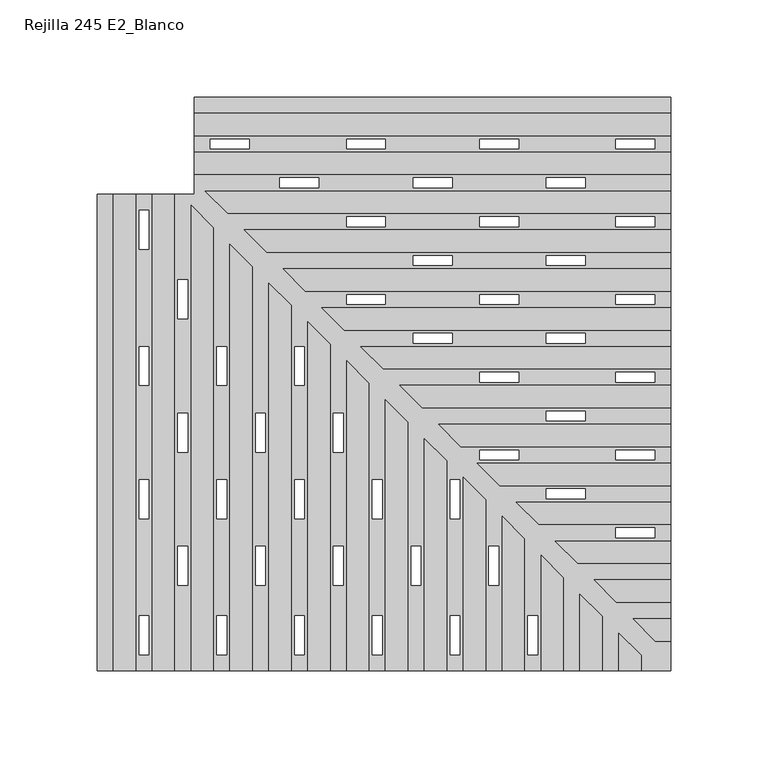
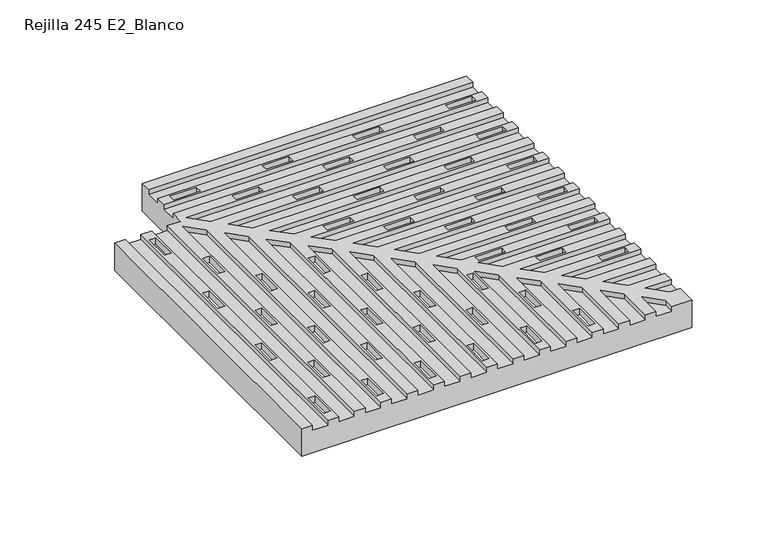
"""IFC4 building model written with IfcOpenShell, lengths in millimetres: proxy geometry, ROSA GRES_245 E2 : Rejilla 245 E2_Blanco."""

from ifc_helpers import new_model, si_unit, origin, place, context, project, spatial, faceted_brep, source, transform, mapped, element, save


def rejilla_245_e2_blanco_29759594(model_context):
    return source(origin(), model_context, "Body", "Brep", [
        faceted_brep([(0.0, 50.0, 228.35), (0.0, 42.0, 228.35), (245.0, 42.0, 228.35), (245.0, 50.0, 228.35), (-50.0, -245.0, 228.35), (-42.0, -245.0, 228.35), (-42.0, 0.0, 228.35), (-50.0, 0.0, 228.35), (-10.0, 0.0, 228.35), (-10.0, -245.0, 228.35), (-2.0, -245.0, 228.35), (-2.0, -5.0710678, 228.35), (10.0, -17.0710678, 228.35), (10.0, -245.0, 228.35), (18.0, -245.0, 228.35), (18.0, -25.0710678, 228.35), (30.0, -37.0710678, 228.35), (30.0, -245.0, 228.35), (38.0, -245.0, 228.35), (38.0, -45.0710678, 228.35), (50.0, -57.0710678, 228.35), (50.0, -245.0, 228.35), (58.0, -245.0, 228.35), (58.0, -65.0710678, 228.35), (70.0, -77.0710678, 228.35), (70.0, -245.0, 228.35), (78.0, -245.0, 228.35), (78.0, -85.0710678, 228.35), (90.0, -97.0710678, 228.35), (90.0, -245.0, 228.35), (98.0, -245.0, 228.35), (98.0, -105.0710678, 228.35), (110.0, -117.0710678, 228.35), (110.0, -245.0, 228.35), (118.0, -245.0, 228.35), (118.0, -125.0710678, 228.35), (130.0, -137.0710678, 228.35), (130.0, -245.0, 228.35), (138.0, -245.0, 228.35), (138.0, -145.0710678, 228.35), (150.0, -157.0710678, 228.35), (150.0, -245.0, 228.35), (158.0, -245.0, 228.35), (158.0, -165.0710678, 228.35), (170.0, -177.0710678, 228.35), (170.0, -245.0, 228.35), (178.0, -245.0, 228.35), (178.0, -185.0710678, 228.35), (190.0, -197.0710678, 228.35), (190.0, -245.0, 228.35), (198.0, -245.0, 228.35), (198.0, -205.0710678, 228.35), (210.0, -217.0710678, 228.35), (210.0, -245.0, 228.35), (218.0, -245.0, 228.35), (218.0, -225.0710678, 228.35), (230.0, -237.0710678, 228.35), (230.0, -245.0, 228.35), (245.0, -245.0, 228.35), (245.0, -230.0, 228.35), (237.0710678, -230.0, 228.35), (225.0710678, -218.0, 228.35), (245.0, -218.0, 228.35), (245.0, -210.0, 228.35), (217.0710678, -210.0, 228.35), (205.0710678, -198.0, 228.35), (245.0, -198.0, 228.35), (245.0, -190.0, 228.35), (197.0710678, -190.0, 228.35), (185.0710678, -178.0, 228.35), (245.0, -178.0, 228.35), (245.0, -170.0, 228.35), (177.0710678, -170.0, 228.35), (165.0710678, -158.0, 228.35), (245.0, -158.0, 228.35), (245.0, -150.0, 228.35), (157.0710678, -150.0, 228.35), (145.0710678, -138.0, 228.35), (245.0, -138.0, 228.35), (245.0, -130.0, 228.35), (137.0710678, -130.0, 228.35), (125.0710678, -118.0, 228.35), (245.0, -118.0, 228.35), (245.0, -110.0, 228.35), (117.0710678, -110.0, 228.35), (105.0710678, -98.0, 228.35), (245.0, -98.0, 228.35), (245.0, -90.0, 228.35), (97.0710678, -90.0, 228.35), (85.0710678, -78.0, 228.35), (245.0, -78.0, 228.35), (245.0, -70.0, 228.35), (77.0710678, -70.0, 228.35), (65.0710678, -58.0, 228.35), (245.0, -58.0, 228.35), (245.0, -50.0, 228.35), (57.0710678, -50.0, 228.35), (45.0710678, -38.0, 228.35), (245.0, -38.0, 228.35), (245.0, -30.0, 228.35), (37.0710678, -30.0, 228.35), (25.0710678, -18.0, 228.35), (245.0, -18.0, 228.35), (245.0, -10.0, 228.35), (17.0710678, -10.0, 228.35), (5.0710678, 2.0, 228.35), (245.0, 2.0, 228.35), (245.0, 10.0, 228.35), (0.0, 10.0, 228.35), (0.0, 0.0, 228.35), (216.7630657, -11.5, 228.35), (236.7630657, -11.5, 228.35), (236.7630657, -16.5, 228.35), (216.7630657, -16.5, 228.35), (216.7630657, -51.5, 228.35), (236.7630657, -51.5, 228.35), (236.7630657, -56.5, 228.35), (216.7630657, -56.5, 228.35), (216.7630657, -91.5, 228.35), (236.7630657, -91.5, 228.35), (236.7630657, -96.5, 228.35), (216.7630657, -96.5, 228.35), (216.7630657, -131.5, 228.35), (236.7630657, -131.5, 228.35), (236.7630657, -136.5, 228.35), (216.7630657, -136.5, 228.35), (216.7630657, -171.5, 228.35), (236.7630657, -171.5, 228.35), (236.7630657, -176.5, 228.35), (216.7630657, -176.5, 228.35), (181.052991, 8.5, 228.35), (201.052991, 8.5, 228.35), (201.052991, 3.5, 228.35), (181.052991, 3.5, 228.35), (181.052991, -31.5, 228.35), (201.052991, -31.5, 228.35), (201.052991, -36.5, 228.35), (181.052991, -36.5, 228.35), (181.052991, -71.5, 228.35), (201.052991, -71.5, 228.35), (201.052991, -76.5, 228.35), (181.052991, -76.5, 228.35), (181.052991, -111.5, 228.35), (201.052991, -111.5, 228.35), (201.052991, -116.5, 228.35), (181.052991, -116.5, 228.35), (181.052991, -151.5, 228.35), (201.052991, -151.5, 228.35), (201.052991, -156.5, 228.35), (181.052991, -156.5, 228.35), (146.7764955, -11.5, 228.35), (166.7764955, -11.5, 228.35), (166.7764955, -16.5, 228.35), (146.7764955, -16.5, 228.35), (146.7764955, -51.5, 228.35), (166.7764955, -51.5, 228.35), (166.7764955, -56.5, 228.35), (146.7764955, -56.5, 228.35), (146.7764955, -91.5, 228.35), (166.7764955, -91.5, 228.35), (166.7764955, -96.5, 228.35), (146.7764955, -96.5, 228.35), (146.7764955, -131.5, 228.35), (166.7764955, -131.5, 228.35), (166.7764955, -136.5, 228.35), (146.7764955, -136.5, 228.35), (112.5, 8.5, 228.35), (132.5, 8.5, 228.35), (132.5, 3.5, 228.35), (112.5, 3.5, 228.35), (112.5, -31.5, 228.35), (132.5, -31.5, 228.35), (132.5, -36.5, 228.35), (112.5, -36.5, 228.35), (112.5, -71.5, 228.35), (132.5, -71.5, 228.35), (132.5, -76.5, 228.35), (112.5, -76.5, 228.35), (78.2235045, -11.5, 228.35), (98.2235045, -11.5, 228.35), (98.2235045, -16.5, 228.35), (78.2235045, -16.5, 228.35), (78.2235045, -51.5, 228.35), (98.2235045, -51.5, 228.35), (98.2235045, -56.5, 228.35), (78.2235045, -56.5, 228.35), (43.947009, 8.5, 228.35), (63.947009, 8.5, 228.35), (63.947009, 3.5, 228.35), (43.947009, 3.5, 228.35), (16.5, -236.7630657, 228.35), (11.5, -236.7630657, 228.35), (11.5, -216.7630657, 228.35), (16.5, -216.7630657, 228.35), (56.5, -236.7630657, 228.35), (51.5, -236.7630657, 228.35), (51.5, -216.7630657, 228.35), (56.5, -216.7630657, 228.35), (96.5, -236.7630657, 228.35), (91.5, -236.7630657, 228.35), (91.5, -216.7630657, 228.35), (96.5, -216.7630657, 228.35), (136.5, -236.7630657, 228.35), (131.5, -236.7630657, 228.35), (131.5, -216.7630657, 228.35), (136.5, -216.7630657, 228.35), (176.5, -236.7630657, 228.35), (171.5, -236.7630657, 228.35), (171.5, -216.7630657, 228.35), (176.5, -216.7630657, 228.35), (-3.5, -201.052991, 228.35), (-8.5, -201.052991, 228.35), (-8.5, -181.052991, 228.35), (-3.5, -181.052991, 228.35), (36.5, -201.052991, 228.35), (31.5, -201.052991, 228.35), (31.5, -181.052991, 228.35), (36.5, -181.052991, 228.35), (76.5, -201.052991, 228.35), (71.5, -201.052991, 228.35), (71.5, -181.052991, 228.35), (76.5, -181.052991, 228.35), (116.5, -201.052991, 228.35), (111.5, -201.052991, 228.35), (111.5, -181.052991, 228.35), (116.5, -181.052991, 228.35), (156.5, -201.052991, 228.35), (151.5, -201.052991, 228.35), (151.5, -181.052991, 228.35), (156.5, -181.052991, 228.35), (16.5, -166.7764955, 228.35), (11.5, -166.7764955, 228.35), (11.5, -146.7764955, 228.35), (16.5, -146.7764955, 228.35), (56.5, -166.7764955, 228.35), (51.5, -166.7764955, 228.35), (51.5, -146.7764955, 228.35), (56.5, -146.7764955, 228.35), (96.5, -166.7764955, 228.35), (91.5, -166.7764955, 228.35), (91.5, -146.7764955, 228.35), (96.5, -146.7764955, 228.35), (136.5, -166.7764955, 228.35), (131.5, -166.7764955, 228.35), (131.5, -146.7764955, 228.35), (136.5, -146.7764955, 228.35), (-3.5, -132.5, 228.35), (-8.5, -132.5, 228.35), (-8.5, -112.5, 228.35), (-3.5, -112.5, 228.35), (36.5, -132.5, 228.35), (31.5, -132.5, 228.35), (31.5, -112.5, 228.35), (36.5, -112.5, 228.35), (76.5, -132.5, 228.35), (71.5, -132.5, 228.35), (71.5, -112.5, 228.35), (76.5, -112.5, 228.35), (16.5, -98.2235045, 228.35), (11.5, -98.2235045, 228.35), (11.5, -78.2235045, 228.35), (16.5, -78.2235045, 228.35), (56.5, -98.2235045, 228.35), (51.5, -98.2235045, 228.35), (51.5, -78.2235045, 228.35), (56.5, -78.2235045, 228.35), (-3.5, -63.947009, 228.35), (-8.5, -63.947009, 228.35), (-8.5, -43.947009, 228.35), (-3.5, -43.947009, 228.35), (-30.0, 0.0, 228.35), (-30.0, -245.0, 228.35), (-22.0, -245.0, 228.35), (-22.0, 0.0, 228.35), (-23.5, -236.7630657, 228.35), (-28.5, -236.7630657, 228.35), (-28.5, -216.7630657, 228.35), (-23.5, -216.7630657, 228.35), (-23.5, -166.7764955, 228.35), (-28.5, -166.7764955, 228.35), (-28.5, -146.7764955, 228.35), (-23.5, -146.7764955, 228.35), (-23.5, -98.2235045, 228.35), (-28.5, -98.2235045, 228.35), (-28.5, -78.2235045, 228.35), (-23.5, -78.2235045, 228.35), (-23.5, -28.2369343, 228.35), (-28.5, -28.2369343, 228.35), (-28.5, -8.2369343, 228.35), (-23.5, -8.2369343, 228.35), (0.0, 22.0, 228.35), (245.0, 22.0, 228.35), (245.0, 30.0, 228.35), (0.0, 30.0, 228.35), (216.7630657, 28.5, 228.35), (236.7630657, 28.5, 228.35), (236.7630657, 23.5, 228.35), (216.7630657, 23.5, 228.35), (146.7764955, 28.5, 228.35), (166.7764955, 28.5, 228.35), (166.7764955, 23.5, 228.35), (146.7764955, 23.5, 228.35), (78.2235045, 28.5, 228.35), (98.2235045, 28.5, 228.35), (98.2235045, 23.5, 228.35), (78.2235045, 23.5, 228.35), (8.2369343, 28.5, 228.35), (28.2369343, 28.5, 228.35), (28.2369343, 23.5, 228.35), (8.2369343, 23.5, 228.35), (-50.0, 0.0, 206.35), (0.0, 0.0, 206.35), (0.0, 50.0, 206.35), (245.0, 50.0, 206.35), (245.0, -245.0, 206.35), (-50.0, -245.0, 206.35), (-46.0, -241.0, 206.35), (241.0, -241.0, 206.35), (241.0, 46.0, 206.35), (4.0, 46.0, 206.35), (4.0, -4.0, 206.35), (-46.0, -4.0, 206.35), (-42.0, 0.0, 224.35), (-30.0, 0.0, 224.35), (-22.0, 0.0, 224.35), (-10.0, 0.0, 224.35), (0.0, 10.0, 224.35), (0.0, 22.0, 224.35), (0.0, 30.0, 224.35), (0.0, 42.0, 224.35), (245.0, 42.0, 224.35), (245.0, 30.0, 224.35), (245.0, 22.0, 224.35), (245.0, 10.0, 224.35), (245.0, 2.0, 224.35), (245.0, -10.0, 224.35), (245.0, -18.0, 224.35), (245.0, -30.0, 224.35), (245.0, -38.0, 224.35), (245.0, -50.0, 224.35), (245.0, -58.0, 224.35), (245.0, -70.0, 224.35), (245.0, -78.0, 224.35), (245.0, -90.0, 224.35), (245.0, -98.0, 224.35), (245.0, -110.0, 224.35), (245.0, -118.0, 224.35), (245.0, -130.0, 224.35), (245.0, -138.0, 224.35), (245.0, -150.0, 224.35), (245.0, -158.0, 224.35), (245.0, -170.0, 224.35), (245.0, -178.0, 224.35), (245.0, -190.0, 224.35), (245.0, -198.0, 224.35), (245.0, -210.0, 224.35), (245.0, -218.0, 224.35), (245.0, -230.0, 224.35), (230.0, -245.0, 224.35), (218.0, -245.0, 224.35), (210.0, -245.0, 224.35), (198.0, -245.0, 224.35), (190.0, -245.0, 224.35), (178.0, -245.0, 224.35), (170.0, -245.0, 224.35), (158.0, -245.0, 224.35), (150.0, -245.0, 224.35), (138.0, -245.0, 224.35), (130.0, -245.0, 224.35), (118.0, -245.0, 224.35), (110.0, -245.0, 224.35), (98.0, -245.0, 224.35), (90.0, -245.0, 224.35), (78.0, -245.0, 224.35), (70.0, -245.0, 224.35), (58.0, -245.0, 224.35), (50.0, -245.0, 224.35), (38.0, -245.0, 224.35), (30.0, -245.0, 224.35), (18.0, -245.0, 224.35), (10.0, -245.0, 224.35), (-2.0, -245.0, 224.35), (-10.0, -245.0, 224.35), (-22.0, -245.0, 224.35), (-30.0, -245.0, 224.35), (-42.0, -245.0, 224.35), (225.0710678, -218.0, 224.35), (237.0710678, -230.0, 224.35), (185.0710678, -178.0, 224.35), (197.0710678, -190.0, 224.35), (165.0710678, -158.0, 224.35), (177.0710678, -170.0, 224.35), (145.0710678, -138.0, 224.35), (157.0710678, -150.0, 224.35), (130.0, -137.0710678, 224.35), (118.0, -125.0710678, 224.35), (150.0, -157.0710678, 224.35), (138.0, -145.0710678, 224.35), (170.0, -177.0710678, 224.35), (158.0, -165.0710678, 224.35), (190.0, -197.0710678, 224.35), (178.0, -185.0710678, 224.35), (210.0, -217.0710678, 224.35), (198.0, -205.0710678, 224.35), (230.0, -237.0710678, 224.35), (218.0, -225.0710678, 224.35), (217.0710678, -210.0, 224.35), (205.0710678, -198.0, 224.35), (125.0710678, -118.0, 224.35), (137.0710678, -130.0, 224.35), (105.0710678, -98.0, 224.35), (117.0710678, -110.0, 224.35), (98.0, -105.0710678, 224.35), (110.0, -117.0710678, 224.35), (78.0, -85.0710678, 224.35), (90.0, -97.0710678, 224.35), (85.0710678, -78.0, 224.35), (97.0710678, -90.0, 224.35), (58.0, -65.0710678, 224.35), (70.0, -77.0710678, 224.35), (65.0710678, -58.0, 224.35), (77.0710678, -70.0, 224.35), (38.0, -45.0710678, 224.35), (50.0, -57.0710678, 224.35), (45.0710678, -38.0, 224.35), (57.0710678, -50.0, 224.35), (25.0710678, -18.0, 224.35), (37.0710678, -30.0, 224.35), (5.0710678, 2.0, 224.35), (17.0710678, -10.0, 224.35), (18.0, -25.0710678, 224.35), (30.0, -37.0710678, 224.35), (-2.0, -5.0710678, 224.35), (10.0, -17.0710678, 224.35), (216.7630657, 23.5, 223.35), (216.7630657, 28.5, 223.35), (236.7630657, 28.5, 223.35), (236.7630657, 23.5, 223.35), (216.7630657, -16.5, 223.35), (216.7630657, -11.5, 223.35), (236.7630657, -11.5, 223.35), (236.7630657, -16.5, 223.35), (216.7630657, -56.5, 223.35), (216.7630657, -51.5, 223.35), (236.7630657, -51.5, 223.35), (236.7630657, -56.5, 223.35), (216.7630657, -96.5, 223.35), (216.7630657, -91.5, 223.35), (236.7630657, -91.5, 223.35), (236.7630657, -96.5, 223.35), (216.7630657, -136.5, 223.35), (216.7630657, -131.5, 223.35), (236.7630657, -131.5, 223.35), (236.7630657, -136.5, 223.35), (216.7630657, -176.5, 223.35), (216.7630657, -171.5, 223.35), (236.7630657, -171.5, 223.35), (236.7630657, -176.5, 223.35), (181.052991, 3.5, 223.35), (181.052991, 8.5, 223.35), (201.052991, 8.5, 223.35), (201.052991, 3.5, 223.35), (181.052991, -36.5, 223.35), (181.052991, -31.5, 223.35), (201.052991, -31.5, 223.35), (201.052991, -36.5, 223.35), (181.052991, -76.5, 223.35), (181.052991, -71.5, 223.35), (201.052991, -71.5, 223.35), (201.052991, -76.5, 223.35), (181.052991, -116.5, 223.35), (181.052991, -111.5, 223.35), (201.052991, -111.5, 223.35), (201.052991, -116.5, 223.35), (181.052991, -156.5, 223.35), (181.052991, -151.5, 223.35), (201.052991, -151.5, 223.35), (201.052991, -156.5, 223.35), (146.7764955, 23.5, 223.35), (146.7764955, 28.5, 223.35), (166.7764955, 28.5, 223.35), (166.7764955, 23.5, 223.35), (146.7764955, -16.5, 223.35), (146.7764955, -11.5, 223.35), (166.7764955, -11.5, 223.35), (166.7764955, -16.5, 223.35), (146.7764955, -56.5, 223.35), (146.7764955, -51.5, 223.35), (166.7764955, -51.5, 223.35), (166.7764955, -56.5, 223.35), (146.7764955, -96.5, 223.35), (146.7764955, -91.5, 223.35), (166.7764955, -91.5, 223.35), (166.7764955, -96.5, 223.35), (146.7764955, -136.5, 223.35), (146.7764955, -131.5, 223.35), (166.7764955, -131.5, 223.35), (166.7764955, -136.5, 223.35), (112.5, 3.5, 223.35), (112.5, 8.5, 223.35), (132.5, 8.5, 223.35), (132.5, 3.5, 223.35), (112.5, -36.5, 223.35), (112.5, -31.5, 223.35), (132.5, -31.5, 223.35), (132.5, -36.5, 223.35), (112.5, -76.5, 223.35), (112.5, -71.5, 223.35), (132.5, -71.5, 223.35), (132.5, -76.5, 223.35), (78.2235045, 23.5, 223.35), (78.2235045, 28.5, 223.35), (98.2235045, 28.5, 223.35), (98.2235045, 23.5, 223.35), (78.2235045, -16.5, 223.35), (78.2235045, -11.5, 223.35), (98.2235045, -11.5, 223.35), (98.2235045, -16.5, 223.35), (78.2235045, -56.5, 223.35), (78.2235045, -51.5, 223.35), (98.2235045, -51.5, 223.35), (98.2235045, -56.5, 223.35), (43.947009, 3.5, 223.35), (43.947009, 8.5, 223.35), (63.947009, 8.5, 223.35), (63.947009, 3.5, 223.35), (8.2369343, 23.5, 223.35), (8.2369343, 28.5, 223.35), (28.2369343, 28.5, 223.35), (28.2369343, 23.5, 223.35), (-23.5, -216.7630657, 223.35), (-23.5, -236.7630657, 223.35), (-28.5, -236.7630657, 223.35), (-28.5, -216.7630657, 223.35), (16.5, -216.7630657, 223.35), (16.5, -236.7630657, 223.35), (11.5, -236.7630657, 223.35), (11.5, -216.7630657, 223.35), (56.5, -216.7630657, 223.35), (56.5, -236.7630657, 223.35), (51.5, -236.7630657, 223.35), (51.5, -216.7630657, 223.35), (96.5, -216.7630657, 223.35), (96.5, -236.7630657, 223.35), (91.5, -236.7630657, 223.35), (91.5, -216.7630657, 223.35), (136.5, -216.7630657, 223.35), (136.5, -236.7630657, 223.35), (131.5, -236.7630657, 223.35), (131.5, -216.7630657, 223.35), (176.5, -216.7630657, 223.35), (176.5, -236.7630657, 223.35), (171.5, -236.7630657, 223.35), (171.5, -216.7630657, 223.35), (-3.5, -181.052991, 223.35), (-3.5, -201.052991, 223.35), (-8.5, -201.052991, 223.35), (-8.5, -181.052991, 223.35), (36.5, -181.052991, 223.35), (36.5, -201.052991, 223.35), (31.5, -201.052991, 223.35), (31.5, -181.052991, 223.35), (76.5, -181.052991, 223.35), (76.5, -201.052991, 223.35), (71.5, -201.052991, 223.35), (71.5, -181.052991, 223.35), (116.5, -181.052991, 223.35), (116.5, -201.052991, 223.35), (111.5, -201.052991, 223.35), (111.5, -181.052991, 223.35), (156.5, -181.052991, 223.35), (156.5, -201.052991, 223.35), (151.5, -201.052991, 223.35), (151.5, -181.052991, 223.35), (-23.5, -146.7764955, 223.35), (-23.5, -166.7764955, 223.35), (-28.5, -166.7764955, 223.35), (-28.5, -146.7764955, 223.35), (16.5, -146.7764955, 223.35), (16.5, -166.7764955, 223.35), (11.5, -166.7764955, 223.35), (11.5, -146.7764955, 223.35), (56.5, -146.7764955, 223.35), (56.5, -166.7764955, 223.35), (51.5, -166.7764955, 223.35), (51.5, -146.7764955, 223.35), (96.5, -146.7764955, 223.35), (96.5, -166.7764955, 223.35), (91.5, -166.7764955, 223.35), (91.5, -146.7764955, 223.35), (136.5, -146.7764955, 223.35), (136.5, -166.7764955, 223.35), (131.5, -166.7764955, 223.35), (131.5, -146.7764955, 223.35), (-3.5, -112.5, 223.35), (-3.5, -132.5, 223.35), (-8.5, -132.5, 223.35), (-8.5, -112.5, 223.35), (36.5, -112.5, 223.35), (36.5, -132.5, 223.35), (31.5, -132.5, 223.35), (31.5, -112.5, 223.35), (76.5, -112.5, 223.35), (76.5, -132.5, 223.35), (71.5, -132.5, 223.35), (71.5, -112.5, 223.35), (-23.5, -78.2235045, 223.35), (-23.5, -98.2235045, 223.35), (-28.5, -98.2235045, 223.35), (-28.5, -78.2235045, 223.35), (16.5, -78.2235045, 223.35), (16.5, -98.2235045, 223.35), (11.5, -98.2235045, 223.35), (11.5, -78.2235045, 223.35), (56.5, -78.2235045, 223.35), (56.5, -98.2235045, 223.35), (51.5, -98.2235045, 223.35), (51.5, -78.2235045, 223.35), (-3.5, -43.947009, 223.35), (-3.5, -63.947009, 223.35), (-8.5, -63.947009, 223.35), (-8.5, -43.947009, 223.35), (-23.5, -8.2369343, 223.35), (-23.5, -28.2369343, 223.35), (-28.5, -28.2369343, 223.35), (-28.5, -8.2369343, 223.35), (-46.0, -241.0, 223.35), (-46.0, -4.0, 223.35), (4.0, -4.0, 223.35), (4.0, 46.0, 223.35), (241.0, 46.0, 223.35), (241.0, -241.0, 223.35)], [[[0, 1, 2, 3]], [[4, 5, 6, 7]], [[8, 9, 10, 11, 12, 13, 14, 15, 16, 17, 18, 19, 20, 21, 22, 23, 24, 25, 26, 27, 28, 29, 30, 31, 32, 33, 34, 35, 36, 37, 38, 39, 40, 41, 42, 43, 44, 45, 46, 47, 48, 49, 50, 51, 52, 53, 54, 55, 56, 57, 58, 59, 60, 61, 62, 63, 64, 65, 66, 67, 68, 69, 70, 71, 72, 73, 74, 75, 76, 77, 78, 79, 80, 81, 82, 83, 84, 85, 86, 87, 88, 89, 90, 91, 92, 93, 94, 95, 96, 97, 98, 99, 100, 101, 102, 103, 104, 105, 106, 107, 108, 109], [110, 111, 112, 113], [114, 115, 116, 117], [118, 119, 120, 121], [122, 123, 124, 125], [126, 127, 128, 129], [130, 131, 132, 133], [134, 135, 136, 137], [138, 139, 140, 141], [142, 143, 144, 145], [146, 147, 148, 149], [150, 151, 152, 153], [154, 155, 156, 157], [158, 159, 160, 161], [162, 163, 164, 165], [166, 167, 168, 169], [170, 171, 172, 173], [174, 175, 176, 177], [178, 179, 180, 181], [182, 183, 184, 185], [186, 187, 188, 189], [190, 191, 192, 193], [194, 195, 196, 197], [198, 199, 200, 201], [202, 203, 204, 205], [206, 207, 208, 209], [210, 211, 212, 213], [214, 215, 216, 217], [218, 219, 220, 221], [222, 223, 224, 225], [226, 227, 228, 229], [230, 231, 232, 233], [234, 235, 236, 237], [238, 239, 240, 241], [242, 243, 244, 245], [246, 247, 248, 249], [250, 251, 252, 253], [254, 255, 256, 257], [258, 259, 260, 261], [262, 263, 264, 265], [266, 267, 268, 269]], [[270, 271, 272, 273], [274, 275, 276, 277], [278, 279, 280, 281], [282, 283, 284, 285], [286, 287, 288, 289]], [[290, 291, 292, 293], [294, 295, 296, 297], [298, 299, 300, 301], [302, 303, 304, 305], [306, 307, 308, 309]], [[310, 311, 312, 313, 314, 315], [316, 317, 318, 319, 320, 321]], [[310, 7, 6, 322, 323, 270, 273, 324, 325, 8, 109, 311]], [[311, 109, 108, 326, 327, 290, 293, 328, 329, 1, 0, 312]], [[3, 313, 312, 0]], [[313, 3, 2, 330, 331, 292, 291, 332, 333, 107, 106, 334, 335, 103, 102, 336, 337, 99, 98, 338, 339, 95, 94, 340, 341, 91, 90, 342, 343, 87, 86, 344, 345, 83, 82, 346, 347, 79, 78, 348, 349, 75, 74, 350, 351, 71, 70, 352, 353, 67, 66, 354, 355, 63, 62, 356, 357, 59, 58, 314]], [[314, 58, 57, 358, 359, 54, 53, 360, 361, 50, 49, 362, 363, 46, 45, 364, 365, 42, 41, 366, 367, 38, 37, 368, 369, 34, 33, 370, 371, 30, 29, 372, 373, 26, 25, 374, 375, 22, 21, 376, 377, 18, 17, 378, 379, 14, 13, 380, 381, 10, 9, 382, 383, 272, 271, 384, 385, 5, 4, 315]], [[7, 310, 315, 4]], [[357, 356, 386, 387]], [[353, 352, 388, 389]], [[351, 350, 390, 391]], [[349, 348, 392, 393]], [[333, 332, 327, 326]], [[331, 330, 329, 328]], [[385, 384, 323, 322]], [[383, 382, 325, 324]], [[369, 368, 394, 395]], [[367, 366, 396, 397]], [[365, 364, 398, 399]], [[363, 362, 400, 401]], [[361, 360, 402, 403]], [[359, 358, 404, 405]], [[406, 355, 354, 407]], [[408, 409, 347, 346]], [[410, 411, 345, 344]], [[412, 371, 370, 413]], [[414, 373, 372, 415]], [[416, 417, 343, 342]], [[418, 375, 374, 419]], [[420, 421, 341, 340]], [[422, 377, 376, 423]], [[424, 425, 339, 338]], [[426, 427, 337, 336]], [[428, 429, 335, 334]], [[430, 379, 378, 431]], [[432, 381, 380, 433]], [[387, 60, 59, 357]], [[386, 61, 60, 387]], [[356, 62, 61, 386]], [[405, 55, 54, 359]], [[404, 56, 55, 405]], [[358, 57, 56, 404]], [[403, 51, 50, 361]], [[402, 52, 51, 403]], [[360, 53, 52, 402]], [[407, 65, 64, 406]], [[354, 66, 65, 407]], [[406, 64, 63, 355]], [[401, 47, 46, 363]], [[400, 48, 47, 401]], [[362, 49, 48, 400]], [[399, 43, 42, 365]], [[398, 44, 43, 399]], [[364, 45, 44, 398]], [[397, 39, 38, 367]], [[396, 40, 39, 397]], [[366, 41, 40, 396]], [[395, 35, 34, 369]], [[394, 36, 35, 395]], [[368, 37, 36, 394]], [[389, 68, 67, 353]], [[388, 69, 68, 389]], [[352, 70, 69, 388]], [[391, 72, 71, 351]], [[390, 73, 72, 391]], [[350, 74, 73, 390]], [[393, 76, 75, 349]], [[392, 77, 76, 393]], [[348, 78, 77, 392]], [[346, 82, 81, 408]], [[409, 80, 79, 347]], [[408, 81, 80, 409]], [[344, 86, 85, 410]], [[411, 84, 83, 345]], [[410, 85, 84, 411]], [[413, 32, 31, 412]], [[370, 33, 32, 413]], [[412, 31, 30, 371]], [[415, 28, 27, 414]], [[372, 29, 28, 415]], [[414, 27, 26, 373]], [[342, 90, 89, 416]], [[417, 88, 87, 343]], [[416, 89, 88, 417]], [[419, 24, 23, 418]], [[374, 25, 24, 419]], [[418, 23, 22, 375]], [[340, 94, 93, 420]], [[421, 92, 91, 341]], [[420, 93, 92, 421]], [[423, 20, 19, 422]], [[376, 21, 20, 423]], [[422, 19, 18, 377]], [[338, 98, 97, 424]], [[425, 96, 95, 339]], [[424, 97, 96, 425]], [[336, 102, 101, 426]], [[427, 100, 99, 337]], [[426, 101, 100, 427]], [[334, 106, 105, 428]], [[429, 104, 103, 335]], [[428, 105, 104, 429]], [[431, 16, 15, 430]], [[378, 17, 16, 431]], [[430, 15, 14, 379]], [[433, 12, 11, 432]], [[380, 13, 12, 433]], [[432, 11, 10, 381]], [[326, 108, 107, 333]], [[332, 291, 290, 327]], [[328, 293, 292, 331]], [[330, 2, 1, 329]], [[324, 273, 272, 383]], [[382, 9, 8, 325]], [[322, 6, 5, 385]], [[384, 271, 270, 323]], [[297, 434, 435, 294]], [[294, 435, 436, 295]], [[295, 436, 437, 296]], [[296, 437, 434, 297]], [[113, 438, 439, 110]], [[110, 439, 440, 111]], [[111, 440, 441, 112]], [[112, 441, 438, 113]], [[117, 442, 443, 114]], [[114, 443, 444, 115]], [[115, 444, 445, 116]], [[116, 445, 442, 117]], [[121, 446, 447, 118]], [[118, 447, 448, 119]], [[119, 448, 449, 120]], [[120, 449, 446, 121]], [[125, 450, 451, 122]], [[122, 451, 452, 123]], [[123, 452, 453, 124]], [[124, 453, 450, 125]], [[129, 454, 455, 126]], [[126, 455, 456, 127]], [[127, 456, 457, 128]], [[128, 457, 454, 129]], [[133, 458, 459, 130]], [[130, 459, 460, 131]], [[131, 460, 461, 132]], [[132, 461, 458, 133]], [[137, 462, 463, 134]], [[134, 463, 464, 135]], [[135, 464, 465, 136]], [[136, 465, 462, 137]], [[141, 466, 467, 138]], [[138, 467, 468, 139]], [[139, 468, 469, 140]], [[140, 469, 466, 141]], [[145, 470, 471, 142]], [[142, 471, 472, 143]], [[143, 472, 473, 144]], [[144, 473, 470, 145]], [[149, 474, 475, 146]], [[146, 475, 476, 147]], [[147, 476, 477, 148]], [[148, 477, 474, 149]], [[301, 478, 479, 298]], [[298, 479, 480, 299]], [[299, 480, 481, 300]], [[300, 481, 478, 301]], [[153, 482, 483, 150]], [[150, 483, 484, 151]], [[151, 484, 485, 152]], [[152, 485, 482, 153]], [[157, 486, 487, 154]], [[154, 487, 488, 155]], [[155, 488, 489, 156]], [[156, 489, 486, 157]], [[161, 490, 491, 158]], [[158, 491, 492, 159]], [[159, 492, 493, 160]], [[160, 493, 490, 161]], [[165, 494, 495, 162]], [[162, 495, 496, 163]], [[163, 496, 497, 164]], [[164, 497, 494, 165]], [[169, 498, 499, 166]], [[166, 499, 500, 167]], [[167, 500, 501, 168]], [[168, 501, 498, 169]], [[173, 502, 503, 170]], [[170, 503, 504, 171]], [[171, 504, 505, 172]], [[172, 505, 502, 173]], [[177, 506, 507, 174]], [[174, 507, 508, 175]], [[175, 508, 509, 176]], [[176, 509, 506, 177]], [[305, 510, 511, 302]], [[302, 511, 512, 303]], [[303, 512, 513, 304]], [[304, 513, 510, 305]], [[181, 514, 515, 178]], [[178, 515, 516, 179]], [[179, 516, 517, 180]], [[180, 517, 514, 181]], [[185, 518, 519, 182]], [[182, 519, 520, 183]], [[183, 520, 521, 184]], [[184, 521, 518, 185]], [[189, 522, 523, 186]], [[186, 523, 524, 187]], [[187, 524, 525, 188]], [[188, 525, 522, 189]], [[309, 526, 527, 306]], [[306, 527, 528, 307]], [[307, 528, 529, 308]], [[308, 529, 526, 309]], [[277, 530, 531, 274]], [[274, 531, 532, 275]], [[275, 532, 533, 276]], [[276, 533, 530, 277]], [[193, 534, 535, 190]], [[190, 535, 536, 191]], [[191, 536, 537, 192]], [[192, 537, 534, 193]], [[197, 538, 539, 194]], [[194, 539, 540, 195]], [[195, 540, 541, 196]], [[196, 541, 538, 197]], [[201, 542, 543, 198]], [[198, 543, 544, 199]], [[199, 544, 545, 200]], [[200, 545, 542, 201]], [[205, 546, 547, 202]], [[202, 547, 548, 203]], [[203, 548, 549, 204]], [[204, 549, 546, 205]], [[209, 550, 551, 206]], [[206, 551, 552, 207]], [[207, 552, 553, 208]], [[208, 553, 550, 209]], [[213, 554, 555, 210]], [[210, 555, 556, 211]], [[211, 556, 557, 212]], [[212, 557, 554, 213]], [[217, 558, 559, 214]], [[214, 559, 560, 215]], [[215, 560, 561, 216]], [[216, 561, 558, 217]], [[221, 562, 563, 218]], [[218, 563, 564, 219]], [[219, 564, 565, 220]], [[220, 565, 562, 221]], [[225, 566, 567, 222]], [[222, 567, 568, 223]], [[223, 568, 569, 224]], [[224, 569, 566, 225]], [[229, 570, 571, 226]], [[226, 571, 572, 227]], [[227, 572, 573, 228]], [[228, 573, 570, 229]], [[281, 574, 575, 278]], [[278, 575, 576, 279]], [[279, 576, 577, 280]], [[280, 577, 574, 281]], [[233, 578, 579, 230]], [[230, 579, 580, 231]], [[231, 580, 581, 232]], [[232, 581, 578, 233]], [[237, 582, 583, 234]], [[234, 583, 584, 235]], [[235, 584, 585, 236]], [[236, 585, 582, 237]], [[241, 586, 587, 238]], [[238, 587, 588, 239]], [[239, 588, 589, 240]], [[240, 589, 586, 241]], [[245, 590, 591, 242]], [[242, 591, 592, 243]], [[243, 592, 593, 244]], [[244, 593, 590, 245]], [[249, 594, 595, 246]], [[246, 595, 596, 247]], [[247, 596, 597, 248]], [[248, 597, 594, 249]], [[253, 598, 599, 250]], [[250, 599, 600, 251]], [[251, 600, 601, 252]], [[252, 601, 598, 253]], [[257, 602, 603, 254]], [[254, 603, 604, 255]], [[255, 604, 605, 256]], [[256, 605, 602, 257]], [[285, 606, 607, 282]], [[282, 607, 608, 283]], [[283, 608, 609, 284]], [[284, 609, 606, 285]], [[261, 610, 611, 258]], [[258, 611, 612, 259]], [[259, 612, 613, 260]], [[260, 613, 610, 261]], [[265, 614, 615, 262]], [[262, 615, 616, 263]], [[263, 616, 617, 264]], [[264, 617, 614, 265]], [[269, 618, 619, 266]], [[266, 619, 620, 267]], [[267, 620, 621, 268]], [[268, 621, 618, 269]], [[289, 622, 623, 286]], [[286, 623, 624, 287]], [[287, 624, 625, 288]], [[288, 625, 622, 289]], [[626, 627, 628, 629, 630, 631], [434, 437, 436, 435], [438, 441, 440, 439], [442, 445, 444, 443], [446, 449, 448, 447], [450, 453, 452, 451], [454, 457, 456, 455], [458, 461, 460, 459], [462, 465, 464, 463], [466, 469, 468, 467], [470, 473, 472, 471], [474, 477, 476, 475], [478, 481, 480, 479], [482, 485, 484, 483], [486, 489, 488, 487], [490, 493, 492, 491], [494, 497, 496, 495], [498, 501, 500, 499], [502, 505, 504, 503], [506, 509, 508, 507], [510, 513, 512, 511], [514, 517, 516, 515], [518, 521, 520, 519], [522, 525, 524, 523], [526, 529, 528, 527], [530, 533, 532, 531], [534, 537, 536, 535], [538, 541, 540, 539], [542, 545, 544, 543], [546, 549, 548, 547], [550, 553, 552, 551], [554, 557, 556, 555], [558, 561, 560, 559], [562, 565, 564, 563], [566, 569, 568, 567], [570, 573, 572, 571], [574, 577, 576, 575], [578, 581, 580, 579], [582, 585, 584, 583], [586, 589, 588, 587], [590, 593, 592, 591], [594, 597, 596, 595], [598, 601, 600, 599], [602, 605, 604, 603], [606, 609, 608, 607], [610, 613, 612, 611], [614, 617, 616, 615], [618, 621, 620, 619], [622, 625, 624, 623]], [[626, 316, 321, 627]], [[627, 321, 320, 628]], [[628, 320, 319, 629]], [[629, 319, 318, 630]], [[630, 318, 317, 631]], [[631, 317, 316, 626]]]),
    ])


if __name__ == "__main__":
    model = new_model("IFC4")
    model_context = context("Model", 3, world=origin())
    ifc_project = project(units=[si_unit("LENGTHUNIT", "METRE", prefix="MILLI")], contexts=[model_context])
    site = spatial("IfcSite", under=ifc_project)
    building = spatial("IfcBuilding", under=site)
    placement = place(None, origin())
    rejilla_245_e2_blanco_shape = rejilla_245_e2_blanco_29759594(model_context)
    element("IfcBuildingElementProxy", 1, Name="ROSA GRES_245 E2 : Rejilla 245 E2_Blanco", ObjectType="ROSA GRES_245 E2 : Rejilla 245 E2_Blanco", at=placement, inside=building, context=model_context, shape_type="MappedRepresentation", body=[
        mapped(rejilla_245_e2_blanco_shape, transform((0.0, 0.0, 0.0), x_axis=(1.0, 0.0, 0.0), y_axis=(0.0, 1.0, 0.0), z_axis=(0.0, 0.0, 1.0))),
    ])
    save(model, "model.ifc")
